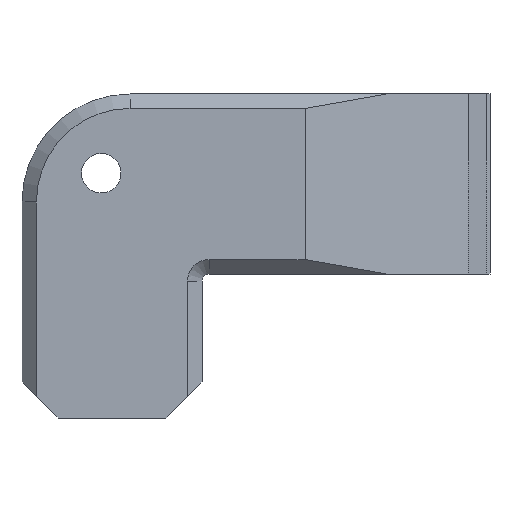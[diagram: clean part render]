
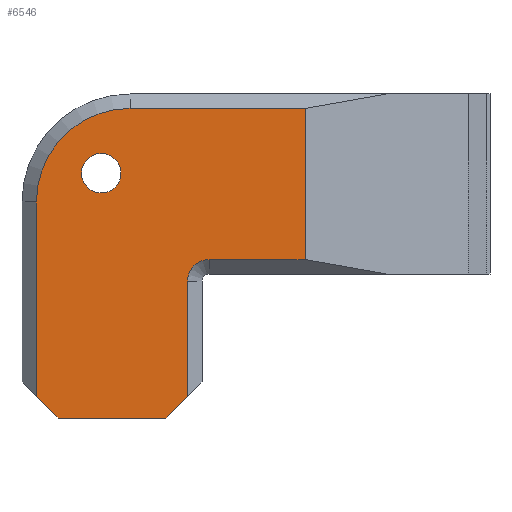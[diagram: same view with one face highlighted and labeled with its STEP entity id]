
A CAD part, front view. The second image highlights one B-rep face of the part: STEP entity #6546.
In plain terms, the highlighted planar face has unit normal (0, -1, 0).
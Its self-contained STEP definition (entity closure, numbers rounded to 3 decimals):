
#210 = DIRECTION ( 'NONE',  ( 0., 0., 1. ) ) ;
#216 = VECTOR ( 'NONE', #7593, 1000. ) ;
#478 = LINE ( 'NONE', #11820, #19711 ) ;
#597 = ORIENTED_EDGE ( 'NONE', *, *, #7266, .T. ) ;
#637 = CARTESIAN_POINT ( 'NONE',  ( 0., -6.5, -40. ) ) ;
#645 = CARTESIAN_POINT ( 'NONE',  ( 0., -6.5, 0. ) ) ;
#1616 = CARTESIAN_POINT ( 'NONE',  ( 11., -6.5, -13.75 ) ) ;
#1624 = EDGE_CURVE ( 'NONE', #12556, #15997, #5806, .T. ) ;
#1632 = EDGE_CURVE ( 'NONE', #2728, #4166, #10773, .T. ) ;
#1787 = CARTESIAN_POINT ( 'NONE',  ( 5., -6.5, -45. ) ) ;
#2075 = CARTESIAN_POINT ( 'NONE',  ( 39.315, -6.5, -45. ) ) ;
#2520 = DIRECTION ( 'NONE',  ( 0., 1., 0. ) ) ;
#2571 = AXIS2_PLACEMENT_3D ( 'NONE', #22579, #11382, #210 ) ;
#2683 = DIRECTION ( 'NONE',  ( 0., 0., -1. ) ) ;
#2695 = EDGE_CURVE ( 'NONE', #18022, #12556, #6602, .T. ) ;
#2728 = VERTEX_POINT ( 'NONE', #8220 ) ;
#3401 = DIRECTION ( 'NONE',  ( 0., 1., 0. ) ) ;
#4152 = CARTESIAN_POINT ( 'NONE',  ( 15., -6.5, -15. ) ) ;
#4166 = VERTEX_POINT ( 'NONE', #8762 ) ;
#4391 = DIRECTION ( 'NONE',  ( 0., 0., 1. ) ) ;
#4567 = CARTESIAN_POINT ( 'NONE',  ( 2., -6.5, 0. ) ) ;
#4609 = ORIENTED_EDGE ( 'NONE', *, *, #11018, .T. ) ;
#5183 = LINE ( 'NONE', #13153, #216 ) ;
#5417 = VERTEX_POINT ( 'NONE', #19903 ) ;
#5639 = AXIS2_PLACEMENT_3D ( 'NONE', #14573, #3401, #16454 ) ;
#5806 = LINE ( 'NONE', #637, #20682 ) ;
#6005 = FACE_BOUND ( 'NONE', #20250, .T. ) ;
#6041 = DIRECTION ( 'NONE',  ( 0., 0., 1. ) ) ;
#6188 = LINE ( 'NONE', #8692, #15527 ) ;
#6262 = ORIENTED_EDGE ( 'NONE', *, *, #19140, .T. ) ;
#6293 = VERTEX_POINT ( 'NONE', #8239 ) ;
#6405 = DIRECTION ( 'NONE',  ( 0., 1., 0. ) ) ;
#6463 = CARTESIAN_POINT ( 'NONE',  ( 26., -6.5, -23. ) ) ;
#6546 = ADVANCED_FACE ( 'NONE', ( #6005, #10981 ), #17360, .F. ) ;
#6602 = LINE ( 'NONE', #4567, #16530 ) ;
#7266 = EDGE_CURVE ( 'NONE', #7308, #15718, #11500, .T. ) ;
#7308 = VERTEX_POINT ( 'NONE', #1616 ) ;
#7405 = CIRCLE ( 'NONE', #2571, 2.75 ) ;
#7562 = VERTEX_POINT ( 'NONE', #10130 ) ;
#7593 = DIRECTION ( 'NONE',  ( 1., 0., 0. ) ) ;
#7890 = CARTESIAN_POINT ( 'NONE',  ( 11., -6.5, -8.25 ) ) ;
#7973 = EDGE_CURVE ( 'NONE', #4166, #18022, #12386, .T. ) ;
#8001 = DIRECTION ( 'NONE',  ( 0., 0., 1. ) ) ;
#8220 = CARTESIAN_POINT ( 'NONE',  ( 39.315, -6.5, -2. ) ) ;
#8239 = CARTESIAN_POINT ( 'NONE',  ( 20., -6.5, -45. ) ) ;
#8643 = EDGE_CURVE ( 'NONE', #6293, #5417, #9972, .T. ) ;
#8692 = CARTESIAN_POINT ( 'NONE',  ( 25., -6.5, -45. ) ) ;
#8762 = CARTESIAN_POINT ( 'NONE',  ( 15., -6.5, -2. ) ) ;
#9061 = ORIENTED_EDGE ( 'NONE', *, *, #8643, .T. ) ;
#9631 = VERTEX_POINT ( 'NONE', #6463 ) ;
#9924 = DIRECTION ( 'NONE',  ( 0.707, 0., -0.707 ) ) ;
#9939 = ORIENTED_EDGE ( 'NONE', *, *, #16093, .T. ) ;
#9972 = LINE ( 'NONE', #24159, #19289 ) ;
#10130 = CARTESIAN_POINT ( 'NONE',  ( 23., -6.5, -26. ) ) ;
#10153 = CIRCLE ( 'NONE', #21368, 3. ) ;
#10391 = ORIENTED_EDGE ( 'NONE', *, *, #2695, .T. ) ;
#10567 = DIRECTION ( 'NONE',  ( -1., 0., 0. ) ) ;
#10773 = LINE ( 'NONE', #11813, #15133 ) ;
#10981 = FACE_OUTER_BOUND ( 'NONE', #23494, .T. ) ;
#11018 = EDGE_CURVE ( 'NONE', #5417, #7562, #478, .T. ) ;
#11382 = DIRECTION ( 'NONE',  ( 0., 1., 0. ) ) ;
#11500 = CIRCLE ( 'NONE', #5639, 2.75 ) ;
#11813 = CARTESIAN_POINT ( 'NONE',  ( 0., -6.5, -2. ) ) ;
#11820 = CARTESIAN_POINT ( 'NONE',  ( 23., -6.5, 0. ) ) ;
#12386 = CIRCLE ( 'NONE', #14706, 13. ) ;
#12556 = VERTEX_POINT ( 'NONE', #16915 ) ;
#12748 = ORIENTED_EDGE ( 'NONE', *, *, #1624, .T. ) ;
#13153 = CARTESIAN_POINT ( 'NONE',  ( 0., -6.5, -23. ) ) ;
#13206 = EDGE_CURVE ( 'NONE', #6293, #15997, #6188, .T. ) ;
#14177 = VERTEX_POINT ( 'NONE', #23911 ) ;
#14453 = ORIENTED_EDGE ( 'NONE', *, *, #20784, .T. ) ;
#14573 = CARTESIAN_POINT ( 'NONE',  ( 11., -6.5, -11. ) ) ;
#14706 = AXIS2_PLACEMENT_3D ( 'NONE', #4152, #17206, #6041 ) ;
#15133 = VECTOR ( 'NONE', #21092, 1000. ) ;
#15315 = ORIENTED_EDGE ( 'NONE', *, *, #7973, .T. ) ;
#15527 = VECTOR ( 'NONE', #10567, 1000. ) ;
#15560 = DIRECTION ( 'NONE',  ( 0., 0., 1. ) ) ;
#15718 = VERTEX_POINT ( 'NONE', #7890 ) ;
#15997 = VERTEX_POINT ( 'NONE', #1787 ) ;
#16093 = EDGE_CURVE ( 'NONE', #15718, #7308, #7405, .T. ) ;
#16116 = LINE ( 'NONE', #2075, #21048 ) ;
#16454 = DIRECTION ( 'NONE',  ( 0., 0., 1. ) ) ;
#16530 = VECTOR ( 'NONE', #2683, 1000. ) ;
#16915 = CARTESIAN_POINT ( 'NONE',  ( 2., -6.5, -42. ) ) ;
#17206 = DIRECTION ( 'NONE',  ( 0., -1., 0. ) ) ;
#17360 = PLANE ( 'NONE',  #18282 ) ;
#17547 = CARTESIAN_POINT ( 'NONE',  ( 26., -6.5, -26. ) ) ;
#18022 = VERTEX_POINT ( 'NONE', #21143 ) ;
#18114 = EDGE_CURVE ( 'NONE', #7562, #9631, #10153, .T. ) ;
#18282 = AXIS2_PLACEMENT_3D ( 'NONE', #645, #2520, #15560 ) ;
#19140 = EDGE_CURVE ( 'NONE', #14177, #2728, #16116, .T. ) ;
#19145 = ORIENTED_EDGE ( 'NONE', *, *, #1632, .T. ) ;
#19289 = VECTOR ( 'NONE', #22278, 1000. ) ;
#19407 = DIRECTION ( 'NONE',  ( 0., 0., 1. ) ) ;
#19711 = VECTOR ( 'NONE', #4391, 1000. ) ;
#19903 = CARTESIAN_POINT ( 'NONE',  ( 23., -6.5, -42. ) ) ;
#20106 = ORIENTED_EDGE ( 'NONE', *, *, #18114, .T. ) ;
#20250 = EDGE_LOOP ( 'NONE', ( #9939, #597 ) ) ;
#20682 = VECTOR ( 'NONE', #9924, 1000. ) ;
#20784 = EDGE_CURVE ( 'NONE', #9631, #14177, #5183, .T. ) ;
#21048 = VECTOR ( 'NONE', #8001, 1000. ) ;
#21092 = DIRECTION ( 'NONE',  ( -1., 0., 0. ) ) ;
#21143 = CARTESIAN_POINT ( 'NONE',  ( 2., -6.5, -15. ) ) ;
#21368 = AXIS2_PLACEMENT_3D ( 'NONE', #17547, #6405, #19407 ) ;
#22278 = DIRECTION ( 'NONE',  ( 0.707, 0., 0.707 ) ) ;
#22579 = CARTESIAN_POINT ( 'NONE',  ( 11., -6.5, -11. ) ) ;
#23494 = EDGE_LOOP ( 'NONE', ( #14453, #6262, #19145, #15315, #10391, #12748, #23539, #9061, #4609, #20106 ) ) ;
#23539 = ORIENTED_EDGE ( 'NONE', *, *, #13206, .F. ) ;
#23911 = CARTESIAN_POINT ( 'NONE',  ( 39.315, -6.5, -23. ) ) ;
#24159 = CARTESIAN_POINT ( 'NONE',  ( 20., -6.5, -45. ) ) ;
